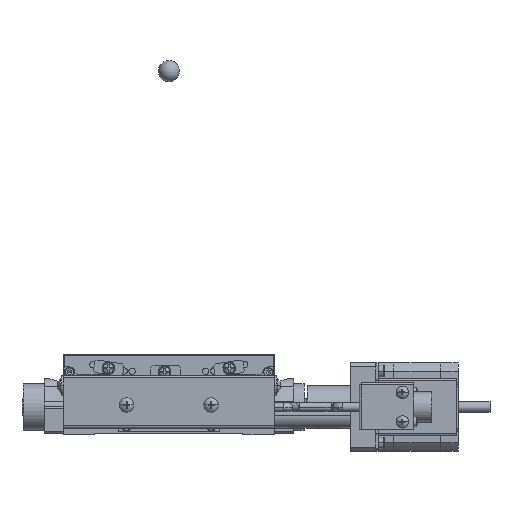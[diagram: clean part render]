
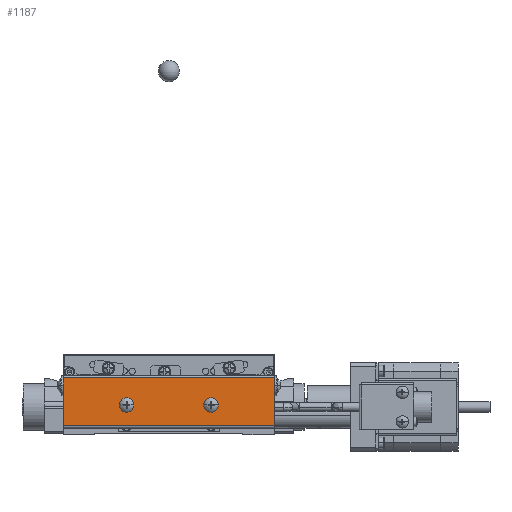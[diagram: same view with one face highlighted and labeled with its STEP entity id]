
A CAD part, front view. The second image highlights one B-rep face of the part: STEP entity #1187.
In plain terms, the highlighted planar face has unit normal (0, -1, 0).
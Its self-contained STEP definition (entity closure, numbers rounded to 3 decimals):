
#1187=ADVANCED_FACE('',(#13252,#13253,#13254),#13251,.T.);
#13251=PLANE('',#35847);
#13252=FACE_OUTER_BOUND('',#35848,.T.);
#13253=FACE_BOUND('',#35849,.T.);
#13254=FACE_BOUND('',#35850,.T.);
#35844=CARTESIAN_POINT('',(-60.,-67.2,1.94));
#35845=DIRECTION('',(0.,-1.,0.));
#35846=DIRECTION('',(1.,0.,0.));
#35847=AXIS2_PLACEMENT_3D('',#35844,#35845,#35846);
#35848=EDGE_LOOP('',(#50876,#50877,#50878,#50879));
#35849=EDGE_LOOP('',(#50880,#50881));
#35850=EDGE_LOOP('',(#50882,#50883));
#50876=ORIENTED_EDGE('',*,*,#61584,.F.);
#50877=ORIENTED_EDGE('',*,*,#61598,.T.);
#50878=ORIENTED_EDGE('',*,*,#61572,.T.);
#50879=ORIENTED_EDGE('',*,*,#61599,.T.);
#50880=ORIENTED_EDGE('',*,*,#61600,.F.);
#50881=ORIENTED_EDGE('',*,*,#61601,.F.);
#50882=ORIENTED_EDGE('',*,*,#61602,.T.);
#50883=ORIENTED_EDGE('',*,*,#61603,.T.);
#61572=EDGE_CURVE('',#83368,#83369,#83370,.T.);
#61584=EDGE_CURVE('',#83446,#83453,#83454,.T.);
#61598=EDGE_CURVE('',#83446,#83368,#83544,.T.);
#61599=EDGE_CURVE('',#83369,#83453,#83550,.T.);
#61600=EDGE_CURVE('',#83556,#83557,#83558,.T.);
#61601=EDGE_CURVE('',#83557,#83556,#83564,.T.);
#61602=EDGE_CURVE('',#83570,#83571,#83572,.T.);
#61603=EDGE_CURVE('',#83571,#83570,#83578,.T.);
#83368=VERTEX_POINT('',#120871);
#83369=VERTEX_POINT('',#120872);
#83370=LINE('',#120873,#120874);
#83446=VERTEX_POINT('',#120918);
#83453=VERTEX_POINT('',#120923);
#83454=LINE('',#120924,#120925);
#83544=LINE('',#120973,#120974);
#83550=LINE('',#120976,#120977);
#83556=VERTEX_POINT('',#120979);
#83557=VERTEX_POINT('',#120980);
#83558=CIRCLE('',#120984,3.45);
#83564=CIRCLE('',#120988,3.45);
#83570=VERTEX_POINT('',#120989);
#83571=VERTEX_POINT('',#120990);
#83572=CIRCLE('',#120994,3.45);
#83578=CIRCLE('',#120998,3.45);
#120871=CARTESIAN_POINT('',(-50.,-67.2,26.8));
#120872=CARTESIAN_POINT('',(-50.,-67.2,4.2));
#120873=CARTESIAN_POINT('',(-50.,-67.2,26.8));
#120874=VECTOR('',#120875,22.6);
#120875=DIRECTION('',(0.,0.,-1.));
#120918=CARTESIAN_POINT('',(50.,-67.2,26.8));
#120923=CARTESIAN_POINT('',(50.,-67.2,4.2));
#120924=CARTESIAN_POINT('',(50.,-67.2,26.8));
#120925=VECTOR('',#120926,22.6);
#120926=DIRECTION('',(0.,0.,-1.));
#120973=CARTESIAN_POINT('',(50.,-67.2,26.8));
#120974=VECTOR('',#120975,100.);
#120975=DIRECTION('',(-1.,0.,0.));
#120976=CARTESIAN_POINT('',(-50.,-67.2,4.2));
#120977=VECTOR('',#120978,100.);
#120978=DIRECTION('',(1.,0.,0.));
#120979=CARTESIAN_POINT('',(-16.55,-67.2,14.));
#120980=CARTESIAN_POINT('',(-23.45,-67.2,14.));
#120981=CARTESIAN_POINT('',(-20.,-67.2,14.));
#120982=DIRECTION('',(0.,-1.,0.));
#120983=DIRECTION('',(-1.,0.,0.));
#120984=AXIS2_PLACEMENT_3D('',#120981,#120982,#120983);
#120985=CARTESIAN_POINT('',(-20.,-67.2,14.));
#120986=DIRECTION('',(0.,-1.,0.));
#120987=DIRECTION('',(-1.,0.,0.));
#120988=AXIS2_PLACEMENT_3D('',#120985,#120986,#120987);
#120989=CARTESIAN_POINT('',(16.55,-67.2,14.));
#120990=CARTESIAN_POINT('',(23.45,-67.2,14.));
#120991=CARTESIAN_POINT('',(20.,-67.2,14.));
#120992=DIRECTION('',(0.,1.,0.));
#120993=DIRECTION('',(-1.,0.,0.));
#120994=AXIS2_PLACEMENT_3D('',#120991,#120992,#120993);
#120995=CARTESIAN_POINT('',(20.,-67.2,14.));
#120996=DIRECTION('',(0.,1.,0.));
#120997=DIRECTION('',(-1.,0.,0.));
#120998=AXIS2_PLACEMENT_3D('',#120995,#120996,#120997);
